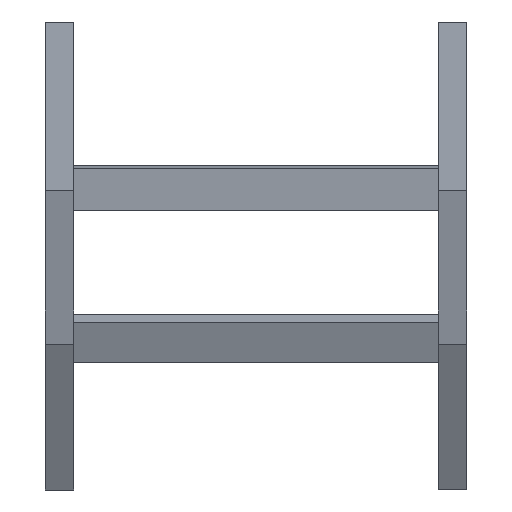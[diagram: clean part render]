
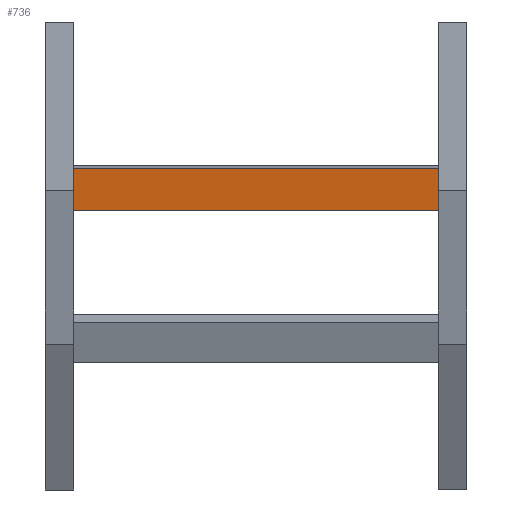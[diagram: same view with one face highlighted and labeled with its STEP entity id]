
A CAD part, front view. The second image highlights one B-rep face of the part: STEP entity #736.
In plain terms, the highlighted planar face has unit normal (0, -0.991, -0.131) as drawn and (0, -1, 0) by its records, which use the part's own axes.
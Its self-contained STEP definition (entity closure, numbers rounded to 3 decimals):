
#28 = VECTOR ( 'NONE', #766, 1000. ) ;
#41 = EDGE_CURVE ( 'NONE', #1349, #1137, #1100, .T. ) ;
#90 = DIRECTION ( 'NONE',  ( 0., 0., 1. ) ) ;
#96 = CARTESIAN_POINT ( 'NONE',  ( 198., 0., 20.25 ) ) ;
#123 = ORIENTED_EDGE ( 'NONE', *, *, #282, .F. ) ;
#219 = ORIENTED_EDGE ( 'NONE', *, *, #41, .F. ) ;
#250 = ORIENTED_EDGE ( 'NONE', *, *, #562, .T. ) ;
#282 = EDGE_CURVE ( 'NONE', #1137, #559, #437, .T. ) ;
#302 = CARTESIAN_POINT ( 'NONE',  ( 198., 0., 20.25 ) ) ;
#323 = CARTESIAN_POINT ( 'NONE',  ( 198., 0., -20.25 ) ) ;
#338 = PLANE ( 'NONE',  #1054 ) ;
#339 = VECTOR ( 'NONE', #699, 1000. ) ;
#355 = CARTESIAN_POINT ( 'NONE',  ( -198., 0., 20.25 ) ) ;
#361 = ORIENTED_EDGE ( 'NONE', *, *, #504, .T. ) ;
#433 = CARTESIAN_POINT ( 'NONE',  ( 198., 0., 20.25 ) ) ;
#437 = LINE ( 'NONE', #323, #28 ) ;
#464 = CARTESIAN_POINT ( 'NONE',  ( 198., 0., 20.25 ) ) ;
#504 = EDGE_CURVE ( 'NONE', #1349, #1198, #826, .T. ) ;
#559 = VERTEX_POINT ( 'NONE', #805 ) ;
#562 = EDGE_CURVE ( 'NONE', #1198, #559, #923, .T. ) ;
#581 = DIRECTION ( 'NONE',  ( -1., 0., 0. ) ) ;
#643 = VECTOR ( 'NONE', #581, 1000. ) ;
#699 = DIRECTION ( 'NONE',  ( 0., 0., -1. ) ) ;
#736 = ADVANCED_FACE ( 'NONE', ( #1445 ), #338, .F. ) ;
#766 = DIRECTION ( 'NONE',  ( -1., 0., 0. ) ) ;
#805 = CARTESIAN_POINT ( 'NONE',  ( -198., 0., -20.25 ) ) ;
#826 = LINE ( 'NONE', #96, #643 ) ;
#868 = DIRECTION ( 'NONE',  ( 0., 0., -1. ) ) ;
#904 = EDGE_LOOP ( 'NONE', ( #250, #123, #219, #361 ) ) ;
#923 = LINE ( 'NONE', #1256, #339 ) ;
#1001 = VECTOR ( 'NONE', #868, 1000. ) ;
#1054 = AXIS2_PLACEMENT_3D ( 'NONE', #433, #1128, #90 ) ;
#1100 = LINE ( 'NONE', #302, #1001 ) ;
#1128 = DIRECTION ( 'NONE',  ( 0., 1., 0. ) ) ;
#1137 = VERTEX_POINT ( 'NONE', #1300 ) ;
#1198 = VERTEX_POINT ( 'NONE', #355 ) ;
#1256 = CARTESIAN_POINT ( 'NONE',  ( -198., 0., 20.25 ) ) ;
#1300 = CARTESIAN_POINT ( 'NONE',  ( 198., 0., -20.25 ) ) ;
#1349 = VERTEX_POINT ( 'NONE', #464 ) ;
#1445 = FACE_OUTER_BOUND ( 'NONE', #904, .T. ) ;
